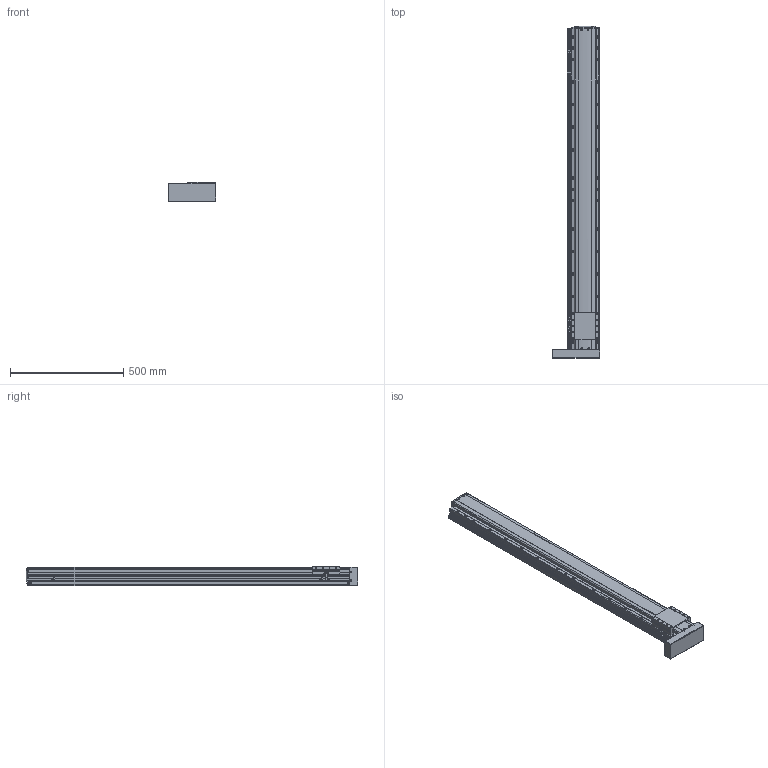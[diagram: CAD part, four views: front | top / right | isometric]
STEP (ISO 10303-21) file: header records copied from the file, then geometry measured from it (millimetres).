
FILE_DESCRIPTION(('STEP AP214'),'1');
FILE_NAME('Z:/Web/3D/PSA125/STP/PSA125-1200 (3D)/PSA125ㅁㅁ-1200PL+3SL.stp','2014-06-23T05:32:57',(' '),(' '),'Spatial InterOp 3D',' ',' ');
FILE_SCHEMA(('automotive_design'));
Length unit declared in the file: millimetre
Products named in the file (41): 스크루 : Round - M4.0 x 10.0; RRCV-PA120; SLIDE; BASE; FRCV-PA120-1(기준 뿔 제거); RR1500; 스크루 : Round - M4.0 x 6.0; 너트 : Square - M10.0 x 220.7419; BTCV - 60A; 스크루 : Round - M3.0 x 6.0; EE-SX674; SBK-SX674-352; M3.0 x 6.0; SRL-16x17-380L; SGD-PA95; 스크루 : Round - M3.0 x 8.0
Bounding box: 212.13 x 1468.6 x 86 mm (x, y, z)
Volume: 12646637.1 mm3; surface area: 1122932.1 mm2
Topology: 41 solids, 41 shells, 2583 faces, 6893 edges, 4406 vertices
Faces by surface type: plane 1423, cylinder 772, cone 268, sphere 64, bspline 31, torus 25
Entity records: 103176 total; most frequent: CARTESIAN_POINT 16735, DIRECTION 13789, ORIENTED_EDGE 13462, EDGE_CURVE 6731, AXIS2_PLACEMENT_3D 4665, LINE 4459, VECTOR 4459, VERTEX_POINT 4406
